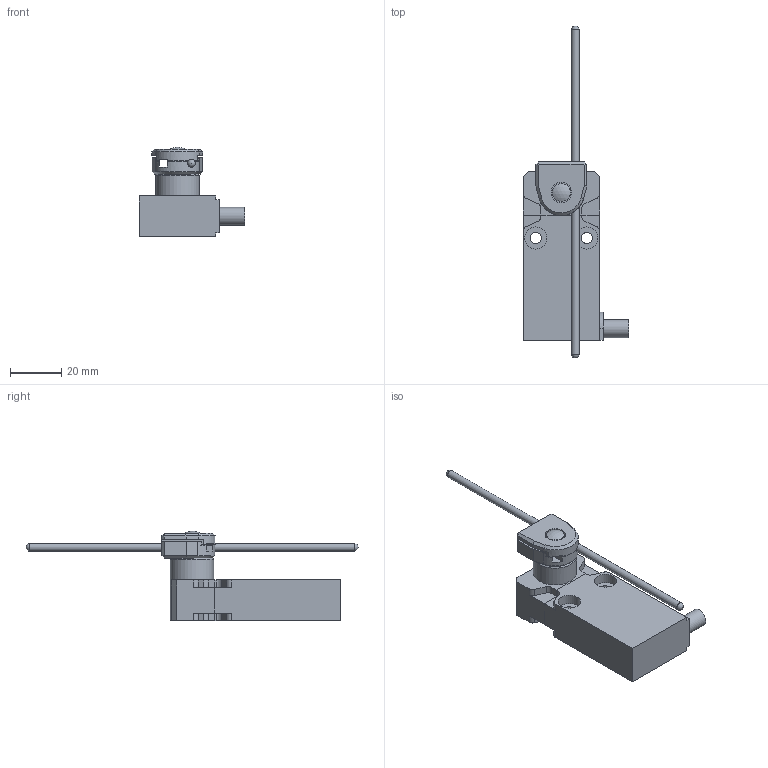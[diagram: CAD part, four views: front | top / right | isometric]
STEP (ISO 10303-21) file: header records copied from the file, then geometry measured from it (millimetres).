
FILE_DESCRIPTION(/* description */ (''),/* implementation_level */ '2;1');
FILE_NAME(/* name */ 'C:\Users\servizio.tecnico\Desktop\CADENAS\3D\EP1_STP\STP_EP1_G72U.stp',/* time_stamp */ '2017-09-01T08:46:20+02:00',/* author */ ('servizio.tecnico'),/* organization */ (''),/* preprocessor_version */ 'ST-DEVELOPER v16.1',/* originating_system */ 'Autodesk Inventor 2016',/* authorisation */ '');
FILE_SCHEMA (('AUTOMOTIVE_DESIGN { 1 0 10303 214 3 1 1 }'));
Length unit declared in the file: millimetre
Products named in the file (3): Product; EP1G72; BASE ASSI 
Assembly tree (2 placements, depth 3):
  BASE ASSI 
    EP1G72
      Product
Bounding box: 41.5 x 130 x 35.03 mm (x, y, z)
Volume: 35381 mm3; surface area: 13008.4 mm2
Topology: 4 solids, 4 shells, 166 faces, 431 edges, 282 vertices
Faces by surface type: plane 119, cylinder 41, sphere 3, cone 2, torus 1
Full cylindrical faces by diameter (mm): 3 x1, 4.4 x2, 7 x2, 8 x1, 8.7 x4, 11 x1, 17 x1
Entity records: 5079 total; most frequent: CARTESIAN_POINT 887, DIRECTION 844, ORIENTED_EDGE 820, EDGE_CURVE 410, LINE 314, VECTOR 314, VERTEX_POINT 276, AXIS2_PLACEMENT_3D 265
